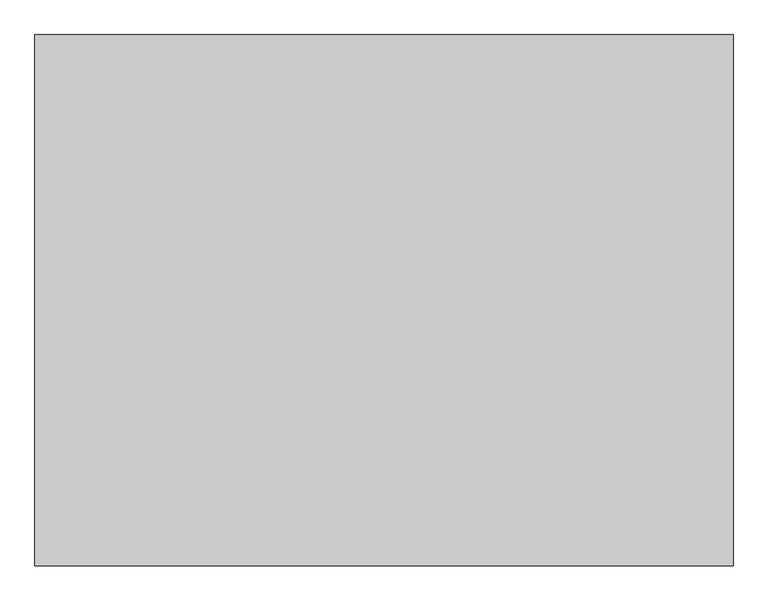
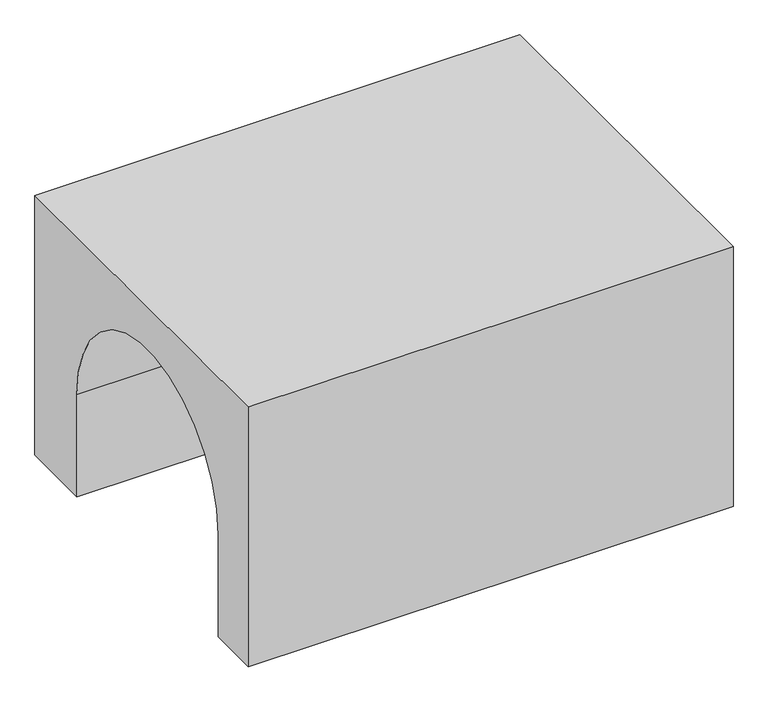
"""IFC4 building model written with IfcOpenShell, lengths in millimetres: proxy geometry, Stollen : Stollen."""

from ifc_helpers import new_model, si_unit, point, frame, frame_2d, origin, place, context, project, spatial, polyline, circle_curve, trimmed, segment, composite_curve, outline, extrude, source, transform, mapped, element, save


def generic_models_97552da3(model_context):
    return source(origin(), model_context, "Body", "SweptSolid", [
        extrude(outline(composite_curve([segment(polyline([(0.0, -2000.0), (5736.412194, -2000.0), (5736.412194, -6268.0154739), (4605.5391258, -6268.0154739), (4605.5391258, -4588.0154739)]), True, "CONTINUOUS"), segment(trimmed(circle_curve(frame_2d((2705.5391258, -4588.0154739)), 1900.0), [point((4605.5391258, -4588.0154739))], [point((805.5391258, -4588.0154739))], True, "CARTESIAN"), True, "CONTINUOUS"), segment(polyline([(805.5391258, -4588.0154739), (805.5391258, -6268.0154739), (0.0, -6268.0154739), (0.0, -2000.0)]), True, "CONTINUOUS")], self_intersect=False)), frame((-7534.4929002, 0.0, 0.0), z_axis=(1.0, 0.0, 0.0), x_axis=(0.0, 1.0, 0.0)), (0.0, 0.0, 1.0), 7534.4929002),
    ])


if __name__ == "__main__":
    model = new_model("IFC4")
    model_context = context("Model", 3, world=origin())
    ifc_project = project(units=[si_unit("LENGTHUNIT", "METRE", prefix="MILLI")], contexts=[model_context])
    site = spatial("IfcSite", under=ifc_project)
    building = spatial("IfcBuilding", under=site)
    placement = place(None, origin())
    generic_models_shape = generic_models_97552da3(model_context)
    element("IfcBuildingElementProxy", 1, Name="Stollen : Stollen", ObjectType="Stollen : Stollen", at=placement, inside=building, context=model_context, shape_type="MappedRepresentation", body=[
        mapped(generic_models_shape, transform((0.0, 0.0, 0.0), x_axis=(1.0, 0.0, 0.0), y_axis=(0.0, 1.0, 0.0), z_axis=(0.0, 0.0, 1.0))),
    ])
    save(model, "model.ifc")
